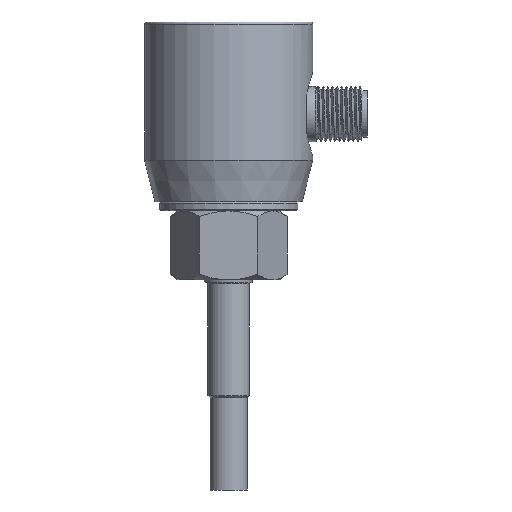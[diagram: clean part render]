
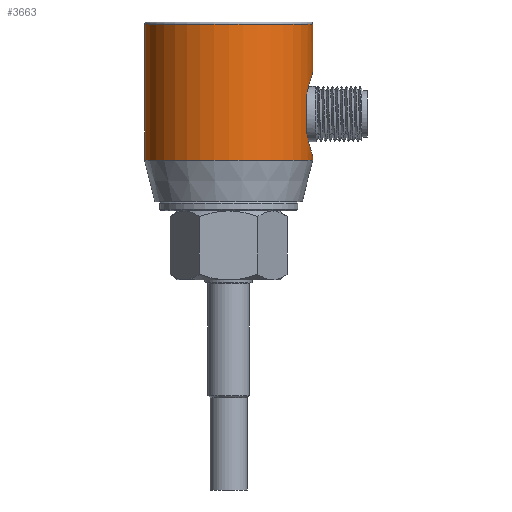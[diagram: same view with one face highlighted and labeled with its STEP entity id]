
A CAD part, left-side view. The second image highlights one B-rep face of the part: STEP entity #3663.
In plain terms, the highlighted cylindrical face has radius 18.25 mm (diameter 36.5 mm), a full revolution.
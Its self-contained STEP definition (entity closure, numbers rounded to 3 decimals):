
#59=LINE('',#19974,#1581);
#60=LINE('',#19978,#1582);
#1581=VECTOR('',#14027,1.);
#1582=VECTOR('',#14030,1.);
#3228=B_SPLINE_CURVE_WITH_KNOTS('',3,(#19940,#19941,#19942,#19943,#19944,
#19945,#19946,#19947,#19948,#19949),.UNSPECIFIED.,.F.,.F.,(4,2,2,2,4),(0.,
0.25,0.5,0.75,1.),.UNSPECIFIED.);
#3230=B_SPLINE_CURVE_WITH_KNOTS('',3,(#19980,#19981,#19982,#19983,#19984,
#19985,#19986,#19987,#19988,#19989),.UNSPECIFIED.,.F.,.F.,(4,2,2,2,4),(0.,
0.25,0.5,0.75,1.),.UNSPECIFIED.);
#3286=CYLINDRICAL_SURFACE('',#13038,18.25);
#3438=FACE_BOUND('',#5632,.T.);
#3439=FACE_BOUND('',#5633,.T.);
#3440=FACE_BOUND('',#5634,.T.);
#3663=ADVANCED_FACE('',(#3438,#3439,#3440),#3286,.T.);
#5632=EDGE_LOOP('',(#6644,#6645,#6646,#6647));
#5633=EDGE_LOOP('',(#6648));
#5634=EDGE_LOOP('',(#6649));
#6644=ORIENTED_EDGE('',*,*,#11160,.F.);
#6645=ORIENTED_EDGE('',*,*,#11157,.F.);
#6646=ORIENTED_EDGE('',*,*,#11154,.F.);
#6647=ORIENTED_EDGE('',*,*,#11159,.F.);
#6648=ORIENTED_EDGE('',*,*,#11161,.T.);
#6649=ORIENTED_EDGE('',*,*,#11162,.F.);
#9926=VERTEX_POINT('',#19938);
#9927=VERTEX_POINT('',#19939);
#9930=VERTEX_POINT('',#19975);
#9931=VERTEX_POINT('',#19977);
#9932=VERTEX_POINT('',#19991);
#9933=VERTEX_POINT('',#19993);
#11154=EDGE_CURVE('',#9927,#9926,#3228,.T.);
#11157=EDGE_CURVE('',#9926,#9930,#59,.T.);
#11159=EDGE_CURVE('',#9931,#9927,#60,.T.);
#11160=EDGE_CURVE('',#9930,#9931,#3230,.T.);
#11161=EDGE_CURVE('',#9932,#9932,#12812,.T.);
#11162=EDGE_CURVE('',#9933,#9933,#12813,.T.);
#12812=CIRCLE('',#13036,18.25);
#12813=CIRCLE('',#13037,18.25);
#13036=AXIS2_PLACEMENT_3D('',#19990,#14033,#14034);
#13037=AXIS2_PLACEMENT_3D('',#19992,#14035,#14036);
#13038=AXIS2_PLACEMENT_3D('',#19994,#14037,#14038);
#14027=DIRECTION('',(0.,0.,1.));
#14030=DIRECTION('',(0.,0.,-1.));
#14033=DIRECTION('',(0.,0.,1.));
#14034=DIRECTION('',(0.,1.,0.));
#14035=DIRECTION('',(0.,0.,1.));
#14036=DIRECTION('',(-1.,0.,0.));
#14037=DIRECTION('',(0.,0.,-1.));
#14038=DIRECTION('',(0.,-1.,0.));
#19938=CARTESIAN_POINT('',(6.765,-16.95,79.729));
#19939=CARTESIAN_POINT('',(-6.765,-16.95,79.729));
#19940=CARTESIAN_POINT('',(-6.765,-16.95,79.729));
#19941=CARTESIAN_POINT('',(-6.151,-17.195,78.404));
#19942=CARTESIAN_POINT('',(-5.25,-17.519,77.243));
#19943=CARTESIAN_POINT('',(-2.935,-18.052,75.533));
#19944=CARTESIAN_POINT('',(-1.504,-18.249,75.004));
#19945=CARTESIAN_POINT('',(1.471,-18.251,74.996));
#19946=CARTESIAN_POINT('',(2.9,-18.058,75.512));
#19947=CARTESIAN_POINT('',(5.25,-17.52,77.238));
#19948=CARTESIAN_POINT('',(6.15,-17.195,78.402));
#19949=CARTESIAN_POINT('',(6.765,-16.95,79.729));
#19974=CARTESIAN_POINT('',(6.765,-16.95,79.729));
#19975=CARTESIAN_POINT('',(6.765,-16.95,88.271));
#19977=CARTESIAN_POINT('',(-6.765,-16.95,88.271));
#19978=CARTESIAN_POINT('',(-6.765,-16.95,88.271));
#19980=CARTESIAN_POINT('',(6.765,-16.95,88.271));
#19981=CARTESIAN_POINT('',(6.151,-17.195,89.596));
#19982=CARTESIAN_POINT('',(5.25,-17.519,90.757));
#19983=CARTESIAN_POINT('',(2.935,-18.052,92.467));
#19984=CARTESIAN_POINT('',(1.504,-18.249,92.996));
#19985=CARTESIAN_POINT('',(-1.471,-18.251,93.004));
#19986=CARTESIAN_POINT('',(-2.9,-18.058,92.488));
#19987=CARTESIAN_POINT('',(-5.25,-17.52,90.762));
#19988=CARTESIAN_POINT('',(-6.15,-17.195,89.598));
#19989=CARTESIAN_POINT('',(-6.765,-16.95,88.271));
#19990=CARTESIAN_POINT('',(0.,0.,74.));
#19991=CARTESIAN_POINT('',(0.,18.25,74.));
#19992=CARTESIAN_POINT('',(0.,0.,103.5));
#19993=CARTESIAN_POINT('',(-18.25,0.,103.5));
#19994=CARTESIAN_POINT('',(0.,0.,103.85));
